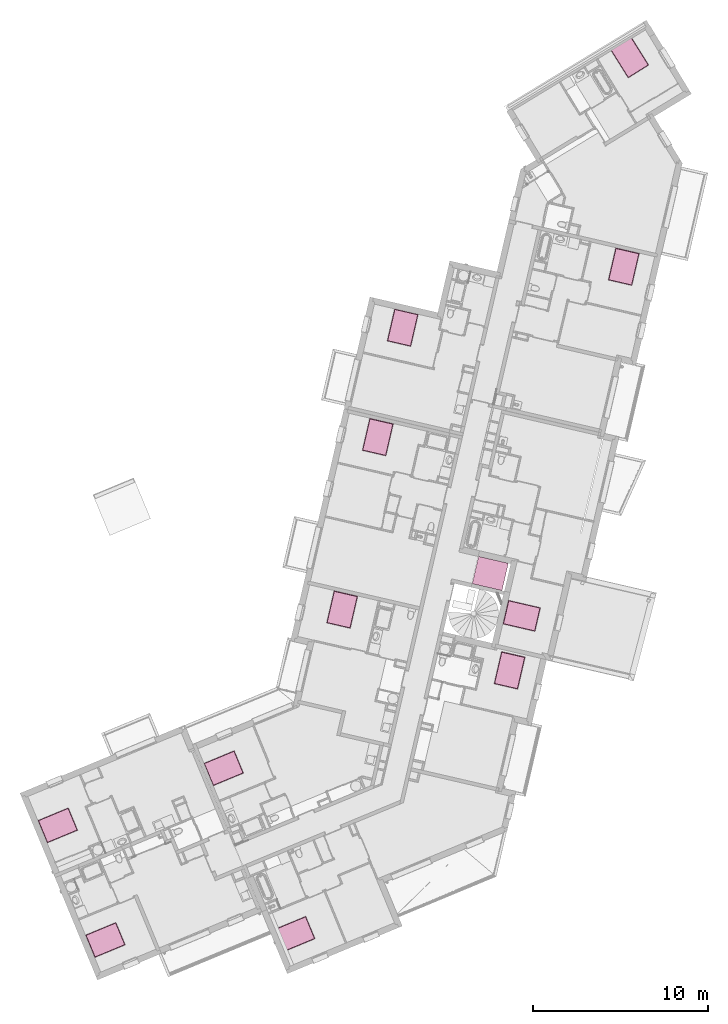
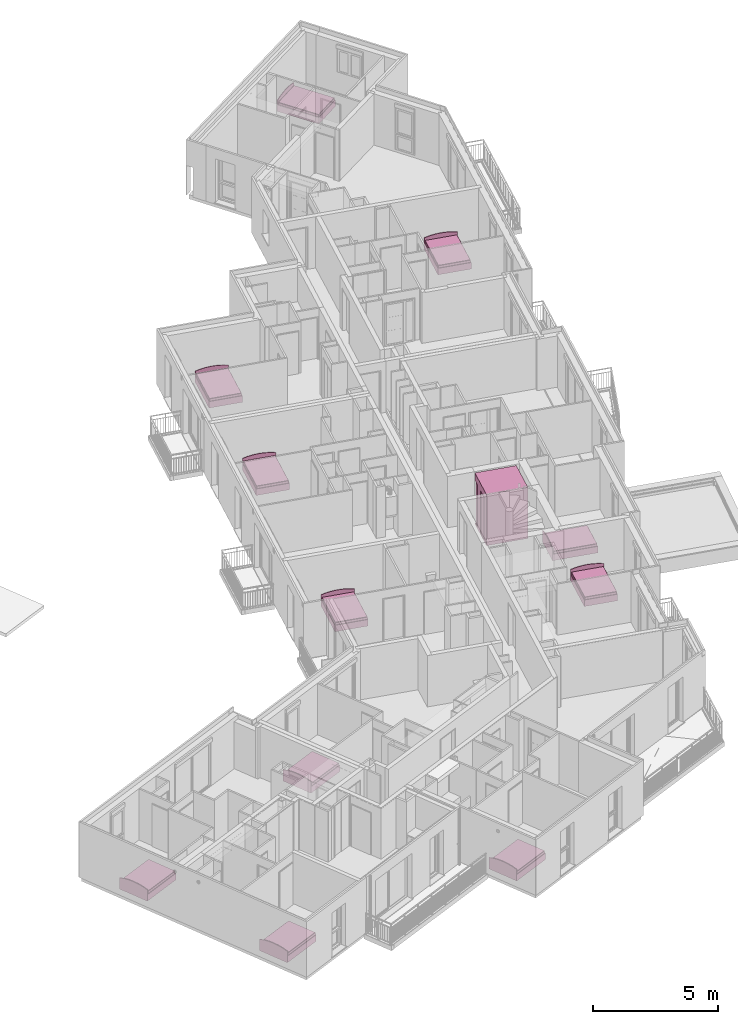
# One storey, part 86 of 90: 11 furnishings, 1 transport element.
"""IFC2X3 building model written with IfcOpenShell, lengths in metres."""

from ifc_helpers import new_model, entity, si_unit, converted_unit, derived_unit, money_unit, direction, frame, origin_with_axes, place, context, subcontext, project, spatial, faceted_brep, source, transform, mapped, type_object, element, save


model = new_model("IFC2X3")

# Units and contexts
model_context = context("Model", 3, precision=1e-05, world=origin_with_axes(), true_north=direction((0.0, 1.0)))
body_context = subcontext(model_context, "Body", "Model", "MODEL_VIEW")
ifc_project = project(units=[si_unit("LENGTHUNIT", "METRE"), si_unit("AREAUNIT", "SQUARE_METRE"), si_unit("VOLUMEUNIT", "CUBIC_METRE"), converted_unit("PLANEANGLEUNIT", "DEGREE", entity("IfcPlaneAngleMeasure", 0.0174532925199), si_unit("PLANEANGLEUNIT", "RADIAN"), dimensions=[0, 0, 0, 0, 0, 0, 0]), si_unit("SOLIDANGLEUNIT", "STERADIAN"), money_unit("EUR"), converted_unit("TIMEUNIT", "Year", entity("IfcTimeMeasure", 31556926.0), si_unit("TIMEUNIT", "SECOND"), dimensions=[0, 0, 1, 0, 0, 0, 0]), si_unit("MASSUNIT", "GRAM", prefix="KILO"), si_unit("THERMODYNAMICTEMPERATUREUNIT", "DEGREE_CELSIUS"), si_unit("LUMINOUSINTENSITYUNIT", "LUMEN"), si_unit("ENERGYUNIT", "JOULE", prefix="MEGA"), derived_unit("THERMALCONDUCTANCEUNIT", [(si_unit("POWERUNIT", "WATT"), 1), (si_unit("LENGTHUNIT", "METRE"), -1), (si_unit("THERMODYNAMICTEMPERATUREUNIT", "KELVIN"), -1)]), derived_unit("SPECIFICHEATCAPACITYUNIT", [(si_unit("ENERGYUNIT", "JOULE"), 1), (si_unit("MASSUNIT", "GRAM", prefix="KILO"), -1), (si_unit("THERMODYNAMICTEMPERATUREUNIT", "KELVIN"), -1)]), derived_unit("MASSDENSITYUNIT", [(si_unit("MASSUNIT", "GRAM", prefix="KILO"), 1), (si_unit("VOLUMEUNIT", "CUBIC_METRE"), -1)])], contexts=[model_context])

# Site, building, storey
site_placement = place(None, origin_with_axes())
site = spatial("IfcSite", under=ifc_project, at=site_placement, Name="Site", CompositionType="ELEMENT")
building_placement = place(site_placement, origin_with_axes())
building = spatial("IfcBuilding", under=site, at=building_placement, Name="Bâtiment", CompositionType="ELEMENT")
storey_placement = place(building_placement, frame((0.0, 0.0, 2.72), z_axis=(0.0, 0.0, 1.0), x_axis=(1.0, 0.0, 0.0)))
storey = spatial("IfcBuildingStorey", under=building, at=storey_placement, Name="R+1", CompositionType="ELEMENT", Elevation=2.72)

# Furnishings
furniture_type = type_object("IfcFurnitureType", Name="Lit double 23", AssemblyPlace="NOTDEFINED")
shared_shape_1 = source(origin_with_axes(), body_context, "Body", "Brep", [
    faceted_brep([(0.0, 1.9, 0.0), (1.4, 1.9, 0.0), (1.4, 1.87, 0.0), (0.0, 1.87, 0.0), (0.0, 1.9, 0.56), (0.229826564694, 1.9, 0.615389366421), (0.463857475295, 1.9, 0.64882235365), (0.7, 1.9, 0.66), (0.936142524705, 1.9, 0.64882235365), (1.17017343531, 1.9, 0.615389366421), (1.4, 1.9, 0.56), (1.4, 1.9, 0.5599), (1.4, 1.87, 0.5599), (1.4, 1.87, 0.56), (1.17017343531, 1.87, 0.615389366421), (0.936142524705, 1.87, 0.64882235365), (0.7, 1.87, 0.66), (0.463857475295, 1.87, 0.64882235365), (0.229826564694, 1.87, 0.615389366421), (0.0, 1.87, 0.56)], [[[0, 1, 2, 3]], [[0, 4, 5, 6, 7, 8, 9, 10, 11, 1]], [[1, 11, 12, 2]], [[3, 2, 12, 13, 14, 15, 16, 17, 18, 19]], [[4, 0, 3, 19]], [[5, 4, 19, 18]], [[6, 5, 18, 17]], [[7, 6, 17, 16]], [[8, 7, 16, 15]], [[9, 8, 15, 14]], [[10, 9, 14, 13]], [[11, 10, 13, 12]]]),
    faceted_brep([(1.4, 0.0, 0.0), (0.0, 0.0, 0.0), (0.0, 1.87, 0.0), (1.4, 1.87, 0.0), (1.4, 0.0, 0.32), (0.0, 0.0, 0.32), (0.0, 1.87, 0.32), (1.4, 1.87, 0.32)], [[[0, 1, 2, 3]], [[1, 0, 4, 5]], [[2, 1, 5, 6]], [[3, 2, 6, 7]], [[0, 3, 7, 4]], [[5, 4, 7, 6]]]),
    faceted_brep([(0.02, 0.04, 0.35), (0.02, 1.85, 0.35), (0.0215224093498, 1.85765366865, 0.35), (0.0258578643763, 1.86414213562, 0.35), (0.0323463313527, 1.86847759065, 0.35), (0.04, 1.87, 0.35), (1.36, 1.87, 0.35), (1.36765366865, 1.86847759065, 0.35), (1.37414213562, 1.86414213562, 0.35), (1.37847759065, 1.85765366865, 0.35), (1.38, 1.85, 0.35), (1.38, 0.04, 0.35), (1.37847759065, 0.0323463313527, 0.35), (1.37414213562, 0.0258578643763, 0.35), (1.36765366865, 0.0215224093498, 0.35), (1.36, 0.02, 0.35), (0.04, 0.02, 0.35), (0.0323463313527, 0.0215224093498, 0.35), (0.0258578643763, 0.0258578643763, 0.35), (0.0215224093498, 0.0323463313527, 0.35), (0.0199999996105, 0.0400000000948, 0.42), (0.0199999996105, 1.84999999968, 0.42), (0.0215224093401, 1.85765366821, 0.42), (0.0258578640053, 1.86414213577, 0.42), (0.0323463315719, 1.86847759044, 0.42), (0.0400000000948, 1.87000000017, 0.42), (1.36000000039, 1.87000000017, 0.42), (1.36765366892, 1.86847759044, 0.42), (1.37414213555, 1.86414213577, 0.42), (1.37847759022, 1.85765366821, 0.42), (1.37999999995, 1.84999999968, 0.42), (1.37999999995, 0.0400000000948, 0.42), (1.37847759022, 0.0323463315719, 0.42), (1.37414213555, 0.0258578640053, 0.42), (1.36765366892, 0.0215224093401, 0.42), (1.36000000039, 0.0199999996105, 0.42), (0.0400000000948, 0.0199999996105, 0.42), (0.0323463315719, 0.0215224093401, 0.42), (0.0258578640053, 0.0258578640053, 0.42), (0.0215224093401, 0.0323463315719, 0.42), (0.0215224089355, 0.0401499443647, 0.427653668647), (0.0215224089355, 1.84985005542, 0.427653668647), (0.0229564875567, 1.85705965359, 0.427653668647), (0.0269554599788, 1.8630445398, 0.427653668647), (0.0329403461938, 1.86704351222, 0.427653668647), (0.0401499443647, 1.86847759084, 0.427653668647), (1.35985005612, 1.86847759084, 0.427653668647), (1.36705965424, 1.86704351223, 0.427653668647), (1.37304453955, 1.86304453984, 0.427653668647), (1.377043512, 1.85705965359, 0.427653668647), (1.37847759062, 1.84985005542, 0.427653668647), (1.37847759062, 0.0401499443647, 0.427653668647), (1.377043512, 0.0329403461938, 0.427653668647), (1.37304453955, 0.0269554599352, 0.427653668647), (1.36705965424, 0.0229564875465, 0.427653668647), (1.35985005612, 0.0215224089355, 0.427653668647), (0.0401499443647, 0.0215224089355, 0.427653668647), (0.0329403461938, 0.0229564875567, 0.427653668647), (0.0269554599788, 0.0269554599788, 0.427653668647), (0.0229564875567, 0.0329403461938, 0.427653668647), (0.0323463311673, 0.0412160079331, 0.43847759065), (0.0323463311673, 1.84878399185, 0.43847759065), (0.0331523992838, 1.85283636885, 0.43847759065), (0.0347590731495, 1.85524092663, 0.43847759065), (0.0371636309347, 1.8568476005, 0.43847759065), (0.0412160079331, 1.85765366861, 0.43847759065), (1.35878399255, 1.85765366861, 0.43847759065), (1.36283636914, 1.85684760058, 0.43847759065), (1.36524092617, 1.85524092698, 0.43847759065), (1.36684760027, 1.85283636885, 0.43847759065), (1.36765366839, 1.84878399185, 0.43847759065), (1.36765366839, 0.0412160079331, 0.43847759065), (1.36684760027, 0.0371636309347, 0.43847759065), (1.36524092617, 0.0347590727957, 0.43847759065), (1.36283636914, 0.0331523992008, 0.43847759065), (1.35878399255, 0.0323463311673, 0.43847759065), (0.0412160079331, 0.0323463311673, 0.43847759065), (0.0371636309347, 0.0331523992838, 0.43847759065), (0.0347590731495, 0.0347590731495, 0.43847759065), (0.0331523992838, 0.0371636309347, 0.43847759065), (0.0400000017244, 0.0419698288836, 0.44000000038), (0.0400000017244, 1.8480301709, 0.44000000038), (0.0403268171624, 1.84967318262, 0.44000000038), (0.0399999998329, 1.84999999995, 0.439923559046), (0.0419698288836, 1.84999999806, 0.44000000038), (1.3580301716, 1.84999999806, 0.44000000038), (1.35967318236, 1.84967318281, 0.44000000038), (1.35999999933, 1.84999999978, 0.439923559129), (1.35999999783, 1.8480301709, 0.44000000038), (1.35999999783, 0.0419698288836, 0.44000000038), (1.35967318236, 0.0403268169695, 0.44000000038), (1.35999999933, 0.0399999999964, 0.439923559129), (1.3580301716, 0.0400000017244, 0.44000000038), (0.0419698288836, 0.0400000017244, 0.44000000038), (0.0403268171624, 0.0403268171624, 0.44000000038), (0.0399999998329, 0.0399999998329, 0.439923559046)], [[[0, 1, 2, 3, 4, 5, 6, 7, 8, 9, 10, 11, 12, 13, 14, 15, 16, 17, 18, 19]], [[1, 0, 20, 21]], [[2, 1, 21, 22]], [[3, 2, 22, 23]], [[4, 3, 23, 24]], [[5, 4, 24, 25]], [[6, 5, 25, 26]], [[7, 6, 26, 27]], [[8, 7, 27, 28]], [[9, 8, 28, 29]], [[10, 9, 29, 30]], [[11, 10, 30, 31]], [[12, 11, 31, 32]], [[13, 12, 32, 33]], [[14, 13, 33, 34]], [[15, 14, 34, 35]], [[16, 15, 35, 36]], [[17, 16, 36, 37]], [[18, 17, 37, 38]], [[19, 18, 38, 39]], [[0, 19, 39, 20]], [[21, 20, 40, 41]], [[22, 21, 41, 42]], [[23, 22, 42, 43]], [[24, 23, 43, 44]], [[25, 24, 44, 45]], [[26, 25, 45, 46]], [[27, 26, 46, 47]], [[28, 27, 47, 48]], [[29, 28, 48, 49]], [[30, 29, 49, 50]], [[31, 30, 50, 51]], [[32, 31, 51, 52]], [[33, 32, 52, 53]], [[34, 33, 53, 54]], [[35, 34, 54, 55]], [[36, 35, 55, 56]], [[37, 36, 56, 57]], [[38, 37, 57, 58]], [[39, 38, 58, 59]], [[20, 39, 59, 40]], [[41, 40, 60, 61]], [[42, 41, 61, 62]], [[43, 42, 62, 63]], [[44, 43, 63, 64]], [[45, 44, 64, 65]], [[46, 45, 65, 66]], [[47, 46, 66, 67]], [[48, 47, 67, 68]], [[49, 48, 68, 69]], [[50, 49, 69, 70]], [[51, 50, 70, 71]], [[52, 51, 71, 72]], [[53, 52, 72, 73]], [[54, 53, 73, 74]], [[55, 54, 74, 75]], [[56, 55, 75, 76]], [[57, 56, 76, 77]], [[58, 57, 77, 78]], [[59, 58, 78, 79]], [[40, 59, 79, 60]], [[61, 60, 80, 81]], [[62, 61, 81, 82, 83]], [[63, 62, 83]], [[64, 63, 83]], [[65, 64, 83, 82, 84]], [[66, 65, 84, 85]], [[67, 66, 85, 86, 87]], [[68, 67, 87]], [[69, 68, 87]], [[70, 69, 87, 86, 88]], [[71, 70, 88, 89]], [[72, 71, 89, 90, 91]], [[73, 72, 91]], [[74, 73, 91]], [[75, 74, 91, 90, 92]], [[76, 75, 92, 93]], [[77, 76, 93, 94, 95]], [[78, 77, 95]], [[79, 78, 95]], [[60, 79, 95, 94, 80]], [[81, 80, 94, 93, 92, 90, 89, 88, 86, 85, 84, 82]]]),
    faceted_brep([(0.02, 0.04, 0.35), (0.0215224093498, 0.0323463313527, 0.35), (0.0258578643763, 0.0258578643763, 0.35), (0.0323463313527, 0.0215224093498, 0.35), (0.04, 0.02, 0.35), (1.36, 0.02, 0.35), (1.36765366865, 0.0215224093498, 0.35), (1.37414213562, 0.0258578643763, 0.35), (1.37847759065, 0.0323463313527, 0.35), (1.38, 0.04, 0.35), (1.38, 1.85, 0.35), (1.37847759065, 1.85765366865, 0.35), (1.37414213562, 1.86414213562, 0.35), (1.36765366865, 1.86847759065, 0.35), (1.36, 1.87, 0.35), (0.04, 1.87, 0.35), (0.0323463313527, 1.86847759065, 0.35), (0.0258578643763, 1.86414213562, 0.35), (0.0215224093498, 1.85765366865, 0.35), (0.02, 1.85, 0.35), (0.0199999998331, 0.0400000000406, 0.32), (0.0215224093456, 0.0323463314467, 0.32), (0.0258578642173, 0.0258578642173, 0.32), (0.0323463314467, 0.0215224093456, 0.32), (0.0400000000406, 0.0199999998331, 0.32), (1.36000000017, 0.0199999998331, 0.32), (1.36765366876, 0.0215224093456, 0.32), (1.37414213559, 0.0258578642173, 0.32), (1.37847759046, 0.0323463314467, 0.32), (1.37999999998, 0.0400000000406, 0.32), (1.37999999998, 1.84999999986, 0.32), (1.37847759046, 1.85765366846, 0.32), (1.37414213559, 1.86414213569, 0.32), (1.36765366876, 1.86847759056, 0.32), (1.36000000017, 1.87000000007, 0.32), (0.0400000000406, 1.87000000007, 0.32), (0.0323463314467, 1.86847759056, 0.32), (0.0258578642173, 1.86414213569, 0.32), (0.0215224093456, 1.85765366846, 0.32), (0.0199999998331, 1.84999999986, 0.32)], [[[0, 1, 2, 3, 4, 5, 6, 7, 8, 9, 10, 11, 12, 13, 14, 15, 16, 17, 18, 19]], [[0, 20, 21, 1]], [[1, 21, 22, 2]], [[2, 22, 23, 3]], [[3, 23, 24, 4]], [[4, 24, 25, 5]], [[5, 25, 26, 6]], [[6, 26, 27, 7]], [[7, 27, 28, 8]], [[8, 28, 29, 9]], [[9, 29, 30, 10]], [[10, 30, 31, 11]], [[11, 31, 32, 12]], [[12, 32, 33, 13]], [[13, 33, 34, 14]], [[14, 34, 35, 15]], [[15, 35, 36, 16]], [[16, 36, 37, 17]], [[17, 37, 38, 18]], [[18, 38, 39, 19]], [[19, 39, 20, 0]], [[20, 39, 38, 37, 36, 35, 34, 33, 32, 31, 30, 29, 28, 27, 26, 25, 24, 23, 22, 21]]]),
])
for number, where, z_axis, x_axis, name in (
    (1, (-6.02163534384, -8.71688446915, 0.0), (0.0, 0.0, 1.0), (0.224876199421, 0.974387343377, 0.0), "MOB-002"),
    (2, (-8.3706438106, -11.7000553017, 0.0), (0.0, 0.0, 1.0), (0.974387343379, -0.224876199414, 0.0), "MOB-002"),
    (3, (-17.9203593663, -8.22757564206, 0.0), (0.0, 0.0, 1.0), (0.974387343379, -0.224876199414, 0.0), "MOB-002"),
    (4, (-32.1025411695, -20.056665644, 0.0), (0.0, 0.0, 1.0), (-0.383112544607, 0.923701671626, 0.0), "MOB-002"),
    (5, (-29.3884122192, -26.5927265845, 0.0), (0.0, 0.0, 1.0), (-0.383112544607, 0.923701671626, 0.0), "MOB-002"),
    (6, (-18.5614836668, -26.2425264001, 0.0), (0.0, 0.0, 1.0), (-0.383112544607, 0.923701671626, 0.0), "MOB-002"),
    (7, (-22.6409793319, -16.7982077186, 0.0), (0.0, 0.0, 1.0), (-0.383112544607, 0.923701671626, 0.0), "MOB-002"),
    (8, (-14.4681545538, 7.8483588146, 0.0), (0.0, 0.0, 1.0), (0.974387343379, -0.224876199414, 0.0), "MOB-002"),
    (9, (-15.8879577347, 1.60742158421, 0.0), (0.0, 0.0, 1.0), (0.974387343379, -0.224876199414, 0.0), "MOB-002"),
):
    element("IfcFurnishingElement", number, at=place(storey_placement, frame(where, z_axis=z_axis, x_axis=x_axis)), inside=storey, type_object=furniture_type, Name=name, ObjectType="BED", context=body_context, shape_type="MappedRepresentation", body=[
        mapped(shared_shape_1, transform((0.0, 0.0, 0.0))),
    ])
shared_shape_2 = source(origin_with_axes(), body_context, "Body", "Brep", [
    faceted_brep([(0.0, 1.9, 0.0), (0.0, 1.87, 0.0), (-1.4, 1.87, 0.0), (-1.4, 1.9, 0.0), (0.0, 1.9, 0.56), (0.0, 1.87, 0.56), (-0.229826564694, 1.87, 0.615389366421), (-0.463857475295, 1.87, 0.64882235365), (-0.7, 1.87, 0.66), (-0.936142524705, 1.87, 0.64882235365), (-1.17017343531, 1.87, 0.615389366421), (-1.4, 1.87, 0.56), (-1.4, 1.87, 0.5599), (-1.4, 1.9, 0.5599), (-1.4, 1.9, 0.56), (-1.17017343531, 1.9, 0.615389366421), (-0.936142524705, 1.9, 0.64882235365), (-0.7, 1.9, 0.66), (-0.463857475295, 1.9, 0.64882235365), (-0.229826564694, 1.9, 0.615389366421)], [[[0, 1, 2, 3]], [[4, 5, 1, 0]], [[1, 5, 6, 7, 8, 9, 10, 11, 12, 2]], [[3, 2, 12, 13]], [[0, 3, 13, 14, 15, 16, 17, 18, 19, 4]], [[19, 6, 5, 4]], [[18, 7, 6, 19]], [[17, 8, 7, 18]], [[16, 9, 8, 17]], [[15, 10, 9, 16]], [[14, 11, 10, 15]], [[13, 12, 11, 14]]]),
    faceted_brep([(-1.4, 0.0, 0.0), (-1.4, 1.87, 0.0), (0.0, 1.87, 0.0), (0.0, 0.0, 0.0), (-1.4, 0.0, 0.32), (-1.4, 1.87, 0.32), (0.0, 1.87, 0.32), (0.0, 0.0, 0.32)], [[[0, 1, 2, 3]], [[0, 4, 5, 1]], [[1, 5, 6, 2]], [[2, 6, 7, 3]], [[3, 7, 4, 0]], [[7, 6, 5, 4]]]),
    faceted_brep([(-0.02, 0.04, 0.35), (-0.0215224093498, 0.0323463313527, 0.35), (-0.0258578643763, 0.0258578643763, 0.35), (-0.0323463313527, 0.0215224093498, 0.35), (-0.04, 0.02, 0.35), (-1.36, 0.02, 0.35), (-1.36765366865, 0.0215224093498, 0.35), (-1.37414213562, 0.0258578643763, 0.35), (-1.37847759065, 0.0323463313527, 0.35), (-1.38, 0.04, 0.35), (-1.38, 1.85, 0.35), (-1.37847759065, 1.85765366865, 0.35), (-1.37414213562, 1.86414213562, 0.35), (-1.36765366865, 1.86847759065, 0.35), (-1.36, 1.87, 0.35), (-0.04, 1.87, 0.35), (-0.0323463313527, 1.86847759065, 0.35), (-0.0258578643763, 1.86414213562, 0.35), (-0.0215224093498, 1.85765366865, 0.35), (-0.02, 1.85, 0.35), (-0.0199999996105, 0.0400000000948, 0.42), (-0.0215224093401, 0.0323463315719, 0.42), (-0.0258578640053, 0.0258578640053, 0.42), (-0.0323463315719, 0.0215224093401, 0.42), (-0.0400000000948, 0.0199999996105, 0.42), (-1.36000000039, 0.0199999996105, 0.42), (-1.36765366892, 0.0215224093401, 0.42), (-1.37414213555, 0.0258578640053, 0.42), (-1.37847759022, 0.0323463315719, 0.42), (-1.37999999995, 0.0400000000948, 0.42), (-1.37999999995, 1.84999999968, 0.42), (-1.37847759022, 1.85765366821, 0.42), (-1.37414213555, 1.86414213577, 0.42), (-1.36765366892, 1.86847759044, 0.42), (-1.36000000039, 1.87000000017, 0.42), (-0.0400000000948, 1.87000000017, 0.42), (-0.0323463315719, 1.86847759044, 0.42), (-0.0258578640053, 1.86414213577, 0.42), (-0.0215224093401, 1.85765366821, 0.42), (-0.0199999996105, 1.84999999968, 0.42), (-0.0215224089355, 0.0401499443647, 0.427653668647), (-0.0229564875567, 0.0329403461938, 0.427653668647), (-0.0269554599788, 0.0269554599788, 0.427653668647), (-0.0329403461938, 0.0229564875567, 0.427653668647), (-0.0401499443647, 0.0215224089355, 0.427653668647), (-1.35985005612, 0.0215224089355, 0.427653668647), (-1.36705965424, 0.0229564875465, 0.427653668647), (-1.37304453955, 0.0269554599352, 0.427653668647), (-1.377043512, 0.0329403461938, 0.427653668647), (-1.37847759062, 0.0401499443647, 0.427653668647), (-1.37847759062, 1.84985005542, 0.427653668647), (-1.377043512, 1.85705965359, 0.427653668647), (-1.37304453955, 1.86304453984, 0.427653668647), (-1.36705965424, 1.86704351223, 0.427653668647), (-1.35985005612, 1.86847759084, 0.427653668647), (-0.0401499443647, 1.86847759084, 0.427653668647), (-0.0329403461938, 1.86704351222, 0.427653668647), (-0.0269554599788, 1.8630445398, 0.427653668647), (-0.0229564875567, 1.85705965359, 0.427653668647), (-0.0215224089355, 1.84985005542, 0.427653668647), (-0.0323463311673, 0.0412160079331, 0.43847759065), (-0.0331523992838, 0.0371636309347, 0.43847759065), (-0.0347590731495, 0.0347590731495, 0.43847759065), (-0.0371636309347, 0.0331523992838, 0.43847759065), (-0.0412160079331, 0.0323463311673, 0.43847759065), (-1.35878399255, 0.0323463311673, 0.43847759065), (-1.36283636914, 0.0331523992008, 0.43847759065), (-1.36524092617, 0.0347590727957, 0.43847759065), (-1.36684760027, 0.0371636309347, 0.43847759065), (-1.36765366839, 0.0412160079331, 0.43847759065), (-1.36765366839, 1.84878399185, 0.43847759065), (-1.36684760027, 1.85283636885, 0.43847759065), (-1.36524092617, 1.85524092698, 0.43847759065), (-1.36283636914, 1.85684760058, 0.43847759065), (-1.35878399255, 1.85765366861, 0.43847759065), (-0.0412160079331, 1.85765366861, 0.43847759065), (-0.0371636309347, 1.8568476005, 0.43847759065), (-0.0347590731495, 1.85524092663, 0.43847759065), (-0.0331523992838, 1.85283636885, 0.43847759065), (-0.0323463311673, 1.84878399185, 0.43847759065), (-0.0400000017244, 0.0419698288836, 0.44000000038), (-0.0403268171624, 0.0403268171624, 0.44000000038), (-0.0399999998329, 0.0399999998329, 0.439923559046), (-0.0419698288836, 0.0400000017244, 0.44000000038), (-1.3580301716, 0.0400000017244, 0.44000000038), (-1.35967318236, 0.0403268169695, 0.44000000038), (-1.35999999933, 0.0399999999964, 0.439923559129), (-1.35999999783, 0.0419698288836, 0.44000000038), (-1.35999999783, 1.8480301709, 0.44000000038), (-1.35967318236, 1.84967318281, 0.44000000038), (-1.35999999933, 1.84999999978, 0.439923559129), (-1.3580301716, 1.84999999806, 0.44000000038), (-0.0419698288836, 1.84999999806, 0.44000000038), (-0.0403268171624, 1.84967318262, 0.44000000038), (-0.0399999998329, 1.84999999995, 0.439923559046), (-0.0400000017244, 1.8480301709, 0.44000000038)], [[[0, 1, 2, 3, 4, 5, 6, 7, 8, 9, 10, 11, 12, 13, 14, 15, 16, 17, 18, 19]], [[0, 20, 21, 1]], [[1, 21, 22, 2]], [[2, 22, 23, 3]], [[3, 23, 24, 4]], [[4, 24, 25, 5]], [[5, 25, 26, 6]], [[6, 26, 27, 7]], [[7, 27, 28, 8]], [[8, 28, 29, 9]], [[9, 29, 30, 10]], [[10, 30, 31, 11]], [[11, 31, 32, 12]], [[12, 32, 33, 13]], [[13, 33, 34, 14]], [[14, 34, 35, 15]], [[15, 35, 36, 16]], [[16, 36, 37, 17]], [[17, 37, 38, 18]], [[18, 38, 39, 19]], [[19, 39, 20, 0]], [[20, 40, 41, 21]], [[21, 41, 42, 22]], [[22, 42, 43, 23]], [[23, 43, 44, 24]], [[24, 44, 45, 25]], [[25, 45, 46, 26]], [[26, 46, 47, 27]], [[27, 47, 48, 28]], [[28, 48, 49, 29]], [[29, 49, 50, 30]], [[30, 50, 51, 31]], [[31, 51, 52, 32]], [[32, 52, 53, 33]], [[33, 53, 54, 34]], [[34, 54, 55, 35]], [[35, 55, 56, 36]], [[36, 56, 57, 37]], [[37, 57, 58, 38]], [[38, 58, 59, 39]], [[39, 59, 40, 20]], [[40, 60, 61, 41]], [[41, 61, 62, 42]], [[42, 62, 63, 43]], [[43, 63, 64, 44]], [[44, 64, 65, 45]], [[45, 65, 66, 46]], [[46, 66, 67, 47]], [[47, 67, 68, 48]], [[48, 68, 69, 49]], [[49, 69, 70, 50]], [[50, 70, 71, 51]], [[51, 71, 72, 52]], [[52, 72, 73, 53]], [[53, 73, 74, 54]], [[54, 74, 75, 55]], [[55, 75, 76, 56]], [[56, 76, 77, 57]], [[57, 77, 78, 58]], [[58, 78, 79, 59]], [[59, 79, 60, 40]], [[60, 80, 81, 82, 61]], [[61, 82, 62]], [[62, 82, 63]], [[63, 82, 81, 83, 64]], [[64, 83, 84, 65]], [[65, 84, 85, 86, 66]], [[66, 86, 67]], [[67, 86, 68]], [[68, 86, 85, 87, 69]], [[69, 87, 88, 70]], [[70, 88, 89, 90, 71]], [[71, 90, 72]], [[72, 90, 73]], [[73, 90, 89, 91, 74]], [[74, 91, 92, 75]], [[75, 92, 93, 94, 76]], [[76, 94, 77]], [[77, 94, 78]], [[78, 94, 93, 95, 79]], [[79, 95, 80, 60]], [[95, 93, 92, 91, 89, 88, 87, 85, 84, 83, 81, 80]]]),
    faceted_brep([(-0.02, 0.04, 0.35), (-0.02, 1.85, 0.35), (-0.0215224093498, 1.85765366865, 0.35), (-0.0258578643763, 1.86414213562, 0.35), (-0.0323463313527, 1.86847759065, 0.35), (-0.04, 1.87, 0.35), (-1.36, 1.87, 0.35), (-1.36765366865, 1.86847759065, 0.35), (-1.37414213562, 1.86414213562, 0.35), (-1.37847759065, 1.85765366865, 0.35), (-1.38, 1.85, 0.35), (-1.38, 0.04, 0.35), (-1.37847759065, 0.0323463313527, 0.35), (-1.37414213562, 0.0258578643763, 0.35), (-1.36765366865, 0.0215224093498, 0.35), (-1.36, 0.02, 0.35), (-0.04, 0.02, 0.35), (-0.0323463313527, 0.0215224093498, 0.35), (-0.0258578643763, 0.0258578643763, 0.35), (-0.0215224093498, 0.0323463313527, 0.35), (-0.0199999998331, 0.0400000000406, 0.32), (-0.0199999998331, 1.84999999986, 0.32), (-0.0215224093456, 1.85765366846, 0.32), (-0.0258578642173, 1.86414213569, 0.32), (-0.0323463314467, 1.86847759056, 0.32), (-0.0400000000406, 1.87000000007, 0.32), (-1.36000000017, 1.87000000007, 0.32), (-1.36765366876, 1.86847759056, 0.32), (-1.37414213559, 1.86414213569, 0.32), (-1.37847759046, 1.85765366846, 0.32), (-1.37999999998, 1.84999999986, 0.32), (-1.37999999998, 0.0400000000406, 0.32), (-1.37847759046, 0.0323463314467, 0.32), (-1.37414213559, 0.0258578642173, 0.32), (-1.36765366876, 0.0215224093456, 0.32), (-1.36000000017, 0.0199999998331, 0.32), (-0.0400000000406, 0.0199999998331, 0.32), (-0.0323463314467, 0.0215224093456, 0.32), (-0.0258578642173, 0.0258578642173, 0.32), (-0.0215224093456, 0.0323463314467, 0.32)], [[[0, 1, 2, 3, 4, 5, 6, 7, 8, 9, 10, 11, 12, 13, 14, 15, 16, 17, 18, 19]], [[1, 0, 20, 21]], [[2, 1, 21, 22]], [[3, 2, 22, 23]], [[4, 3, 23, 24]], [[5, 4, 24, 25]], [[6, 5, 25, 26]], [[7, 6, 26, 27]], [[8, 7, 27, 28]], [[9, 8, 28, 29]], [[10, 9, 29, 30]], [[11, 10, 30, 31]], [[12, 11, 31, 32]], [[13, 12, 32, 33]], [[14, 13, 33, 34]], [[15, 14, 34, 35]], [[16, 15, 35, 36]], [[17, 16, 36, 37]], [[18, 17, 37, 38]], [[19, 18, 38, 39]], [[0, 19, 39, 20]], [[20, 39, 38, 37, 36, 35, 34, 33, 32, 31, 30, 29, 28, 27, 26, 25, 24, 23, 22, 21]]]),
])
for number, where, z_axis, x_axis, name in (
    (10, (-0.493133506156, 11.0118005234, 0.0), (0.0, 0.0, 1.0), (0.974387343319, -0.224876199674, 0.0), "MOB-002"),
    (11, (0.470009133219, 23.5887571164, 0.0), (0.0, 0.0, 1.0), (0.848007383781, 0.529984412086, 0.0), "MOB-002"),
):
    element("IfcFurnishingElement", number, at=place(storey_placement, frame(where, z_axis=z_axis, x_axis=x_axis)), inside=storey, type_object=furniture_type, Name=name, ObjectType="BED", context=body_context, shape_type="MappedRepresentation", body=[
        mapped(shared_shape_2, transform((0.0, 0.0, 0.0))),
    ])

# Transport element
transport_element_type = type_object("IfcTransportElementType", Name="Ascenseur 23", PredefinedType="ELEVATOR")
shared_shape_3 = source(origin_with_axes(), body_context, "Body", "Brep", [
    faceted_brep([(0.95, 0.21, 0.0), (0.5, 0.21, 0.0), (0.5, 0.21, 2.1), (0.95, 0.21, 2.1), (0.95, 0.19, 0.0), (0.5, 0.19, 0.0), (0.5, 0.19, 2.1), (0.95, 0.19, 2.1)], [[[0, 1, 2, 3]], [[1, 0, 4, 5]], [[2, 1, 5, 6]], [[3, 2, 6, 7]], [[0, 3, 7, 4]], [[5, 4, 7, 6]]]),
    faceted_brep([(1.4, 0.23, 0.0), (0.95, 0.23, 0.0), (0.95, 0.23, 2.1), (1.4, 0.23, 2.1), (1.4, 0.21, 0.0), (0.95, 0.21, 0.0), (0.95, 0.21, 2.1), (1.4, 0.21, 2.1)], [[[0, 1, 2, 3]], [[1, 0, 4, 5]], [[2, 1, 5, 6]], [[3, 2, 6, 7]], [[0, 3, 7, 4]], [[5, 4, 7, 6]]]),
    faceted_brep([(1.4, 0.27, 0.0), (1.669, 0.27, 0.0), (1.669, 1.85, 0.0), (0.231, 1.85, 0.0), (0.231, 0.27, 0.0), (0.5, 0.27, 0.0), (0.5, 0.23, 0.0), (0.151, 0.23, 0.0), (0.151, 1.93, 0.0), (1.749, 1.93, 0.0), (1.749, 0.19, 0.0), (1.4, 0.19, 0.0), (0.231, 0.27, 2.4), (1.669, 0.27, 2.4), (1.4, 0.27, 2.1), (0.5, 0.27, 2.1), (1.669, 1.85, 2.4), (0.231, 1.85, 2.4), (0.5, 0.23, 2.1), (0.151, 0.23, 2.1), (0.151, 0.19, 2.1), (0.151, 0.19, 2.4), (0.151, 1.93, 2.4), (1.749, 1.93, 2.4), (1.749, 0.19, 2.4), (1.4, 0.19, 2.1)], [[[0, 1, 2, 3, 4, 5, 6, 7, 8, 9, 10, 11]], [[12, 13, 1, 0, 14, 15, 5, 4]], [[13, 16, 2, 1]], [[16, 17, 3, 2]], [[17, 12, 4, 3]], [[5, 15, 18, 6]], [[18, 19, 7, 6]], [[19, 20, 21, 22, 8, 7]], [[23, 9, 8, 22]], [[24, 10, 9, 23]], [[21, 20, 25, 11, 10, 24]], [[14, 0, 11, 25]], [[22, 21, 24, 23], [12, 17, 16, 13]], [[15, 14, 25, 20, 19, 18]]]),
    faceted_brep([(0.151, 0.19, -0.05), (1.749, 0.19, -0.05), (1.749, 0.19, 0.0), (0.151, 0.19, 0.0), (0.151, 1.93, -0.05), (1.749, 1.93, -0.05), (1.749, 1.93, 0.0), (0.151, 1.93, 0.0)], [[[0, 1, 2, 3]], [[0, 4, 5, 1]], [[1, 5, 6, 2]], [[3, 2, 6, 7]], [[4, 0, 3, 7]], [[5, 4, 7, 6]]]),
    faceted_brep([(0.151, 0.19, 2.4), (1.749, 0.19, 2.4), (1.749, 0.19, 2.45), (0.151, 0.19, 2.45), (0.151, 1.93, 2.4), (1.749, 1.93, 2.4), (1.749, 1.93, 2.45), (0.151, 1.93, 2.45)], [[[0, 1, 2, 3]], [[0, 4, 5, 1]], [[1, 5, 6, 2]], [[3, 2, 6, 7]], [[4, 0, 3, 7]], [[5, 4, 7, 6]]]),
    faceted_brep([(1.669, 0.37, 1.0), (1.669, 0.47, 1.0), (1.669, 0.47, 1.075), (1.669, 0.37, 1.075), (1.659, 0.37, 1.0), (1.659, 0.47, 1.0), (1.659, 0.47, 1.075), (1.659, 0.37, 1.075)], [[[0, 1, 2, 3]], [[1, 0, 4, 5]], [[2, 1, 5, 6]], [[3, 2, 6, 7]], [[0, 3, 7, 4]], [[5, 4, 7, 6]]]),
    faceted_brep([(1.659, 0.450428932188, 1.00542893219), (1.659, 0.450428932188, 1.01957106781), (1.654, 0.451843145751, 1.01815685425), (1.654, 0.451843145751, 1.00684314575), (1.659, 0.464571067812, 1.00542893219), (1.659, 0.464571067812, 1.01957106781), (1.654, 0.463156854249, 1.01815685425), (1.654, 0.463156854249, 1.00684314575)], [[[0, 1, 2, 3]], [[0, 4, 5, 1]], [[1, 5, 6, 2]], [[3, 2, 6, 7]], [[4, 0, 3, 7]], [[5, 4, 7, 6]]]),
    faceted_brep([(1.659, 0.425428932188, 1.00542893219), (1.659, 0.425428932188, 1.01957106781), (1.654, 0.426843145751, 1.01815685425), (1.654, 0.426843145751, 1.00684314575), (1.659, 0.439571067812, 1.00542893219), (1.659, 0.439571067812, 1.01957106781), (1.654, 0.438156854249, 1.01815685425), (1.654, 0.438156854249, 1.00684314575)], [[[0, 1, 2, 3]], [[0, 4, 5, 1]], [[1, 5, 6, 2]], [[3, 2, 6, 7]], [[4, 0, 3, 7]], [[5, 4, 7, 6]]]),
    faceted_brep([(1.659, 0.400428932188, 1.00542893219), (1.659, 0.400428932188, 1.01957106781), (1.654, 0.401843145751, 1.01815685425), (1.654, 0.401843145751, 1.00684314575), (1.659, 0.414571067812, 1.00542893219), (1.659, 0.414571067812, 1.01957106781), (1.654, 0.413156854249, 1.01815685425), (1.654, 0.413156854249, 1.00684314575)], [[[0, 1, 2, 3]], [[0, 4, 5, 1]], [[1, 5, 6, 2]], [[3, 2, 6, 7]], [[4, 0, 3, 7]], [[5, 4, 7, 6]]]),
    faceted_brep([(1.659, 0.375428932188, 1.00542893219), (1.659, 0.375428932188, 1.01957106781), (1.654, 0.376843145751, 1.01815685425), (1.654, 0.376843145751, 1.00684314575), (1.659, 0.389571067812, 1.00542893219), (1.659, 0.389571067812, 1.01957106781), (1.654, 0.388156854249, 1.01815685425), (1.654, 0.388156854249, 1.00684314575)], [[[0, 1, 2, 3]], [[0, 4, 5, 1]], [[1, 5, 6, 2]], [[3, 2, 6, 7]], [[4, 0, 3, 7]], [[5, 4, 7, 6]]]),
    faceted_brep([(1.659, 0.450428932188, 1.05542893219), (1.659, 0.450428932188, 1.06957106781), (1.654, 0.451843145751, 1.06815685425), (1.654, 0.451843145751, 1.05684314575), (1.659, 0.464571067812, 1.05542893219), (1.659, 0.464571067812, 1.06957106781), (1.654, 0.463156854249, 1.06815685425), (1.654, 0.463156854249, 1.05684314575)], [[[0, 1, 2, 3]], [[0, 4, 5, 1]], [[1, 5, 6, 2]], [[3, 2, 6, 7]], [[4, 0, 3, 7]], [[5, 4, 7, 6]]]),
])
transport_element_placement = place(storey_placement, frame((-9.39707466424, -4.24324675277, 0.0), z_axis=(0.0, 0.0, 1.0), x_axis=(-0.224876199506, -0.974387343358, 0.0)))
element("IfcTransportElement", 12, at=transport_element_placement, inside=storey, type_object=transport_element_type, Name="MOB-001", ObjectType="ELEVATOR", context=body_context, shape_type="MappedRepresentation", body=[
    mapped(shared_shape_3, transform((0.0, 0.0, 0.0))),
])

save(model, "model.ifc")
